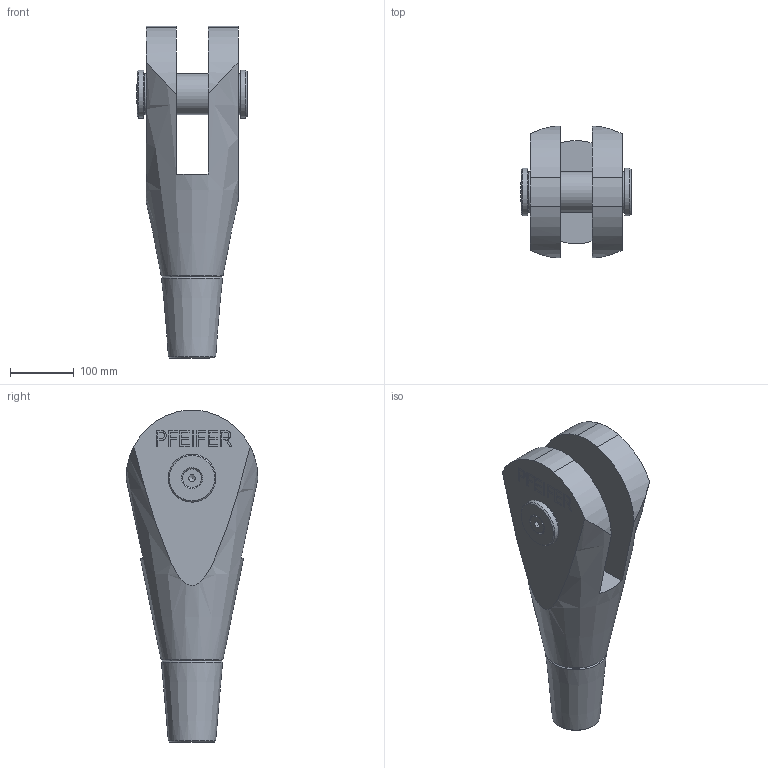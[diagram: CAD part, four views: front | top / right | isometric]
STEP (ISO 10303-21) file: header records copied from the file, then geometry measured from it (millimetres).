
FILE_DESCRIPTION(/* description */ (''),/* implementation_level */ '2;1');
FILE_NAME(/* name */ 'C:\Vault_WS\Designs\520-064-GAK.stp',/* time_stamp */ '2020-06-25T07:58:19+02:00',/* author */ ('schwarz'),/* organization */ (''),/* preprocessor_version */ 'ST-DEVELOPER v16.1',/* originating_system */ 'Autodesk Inventor 2016',/* authorisation */ '');
FILE_SCHEMA (('AUTOMOTIVE_DESIGN { 1 0 10303 214 3 1 1 }'));
Length unit declared in the file: centimetre
Products named in the file (1): 520-064-GAK-KMU-Kunde
Bounding box: 172.3 x 206.41 x 519.69 mm (x, y, z)
Volume: 6176422.3 mm3; surface area: 388264.5 mm2
Topology: 2 solids, 4 shells, 186 faces, 483 edges, 320 vertices
Faces by surface type: plane 136, bspline 21, cylinder 16, cone 13
Full cylindrical faces by diameter (mm): 13.835 x1, 16 x1, 17.5 x1, 29.01 x1, 64 x1, 66.5 x1, 67 x2, 75 x2
Entity records: 5777 total; most frequent: CARTESIAN_POINT 1272, ORIENTED_EDGE 900, DIRECTION 768, EDGE_CURVE 450, LINE 348, VECTOR 348, VERTEX_POINT 310, EDGE_LOOP 230
